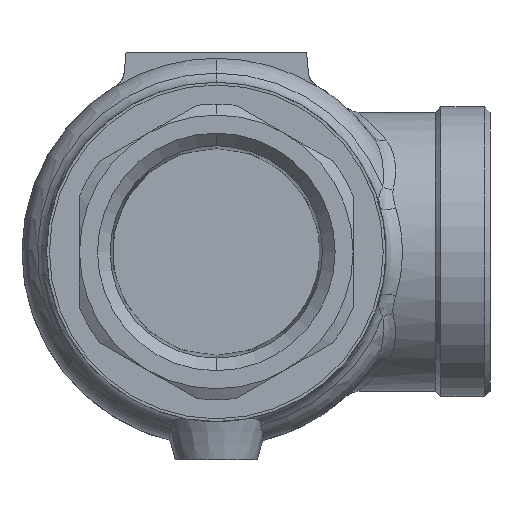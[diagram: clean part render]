
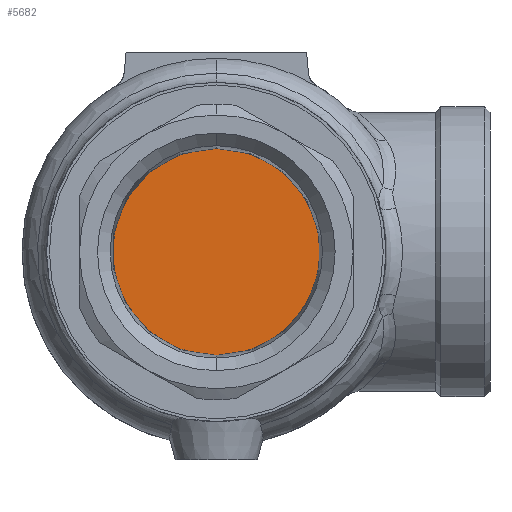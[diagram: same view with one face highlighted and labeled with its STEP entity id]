
A CAD part, front view. The second image highlights one B-rep face of the part: STEP entity #5682.
In plain terms, the highlighted planar face has unit normal (0, -1, 0).
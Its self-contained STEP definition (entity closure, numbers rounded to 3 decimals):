
#660 = CARTESIAN_POINT ( 'NONE',  ( 0., -43., 18.9 ) ) ;
#807 = CARTESIAN_POINT ( 'NONE',  ( 0., -43., 0. ) ) ;
#926 = CARTESIAN_POINT ( 'NONE',  ( -18.9, -43., 0. ) ) ;
#1217 = EDGE_LOOP ( 'NONE', ( #6500, #6875 ) ) ;
#1301 = AXIS2_PLACEMENT_3D ( 'NONE', #926, #1398, #4457 ) ;
#1398 = DIRECTION ( 'NONE',  ( 0., 1., 0. ) ) ;
#1620 = CIRCLE ( 'NONE', #4491, 18.9 ) ;
#1667 = DIRECTION ( 'NONE',  ( 0., 1., 0. ) ) ;
#2007 = VERTEX_POINT ( 'NONE', #6822 ) ;
#2574 = DIRECTION ( 'NONE',  ( 0., 1., 0. ) ) ;
#2731 = DIRECTION ( 'NONE',  ( 0., 0., 1. ) ) ;
#4326 = DIRECTION ( 'NONE',  ( 0., 0., 1. ) ) ;
#4457 = DIRECTION ( 'NONE',  ( 0., 0., 1. ) ) ;
#4491 = AXIS2_PLACEMENT_3D ( 'NONE', #4646, #1667, #2731 ) ;
#4646 = CARTESIAN_POINT ( 'NONE',  ( 0., -43., 0. ) ) ;
#4737 = AXIS2_PLACEMENT_3D ( 'NONE', #807, #2574, #4326 ) ;
#4759 = EDGE_CURVE ( 'NONE', #2007, #6991, #4863, .T. ) ;
#4863 = CIRCLE ( 'NONE', #4737, 18.9 ) ;
#4911 = EDGE_CURVE ( 'NONE', #6991, #2007, #1620, .T. ) ;
#5546 = FACE_OUTER_BOUND ( 'NONE', #1217, .T. ) ;
#5682 = ADVANCED_FACE ( 'NONE', ( #5546 ), #7360, .F. ) ;
#6500 = ORIENTED_EDGE ( 'NONE', *, *, #4759, .F. ) ;
#6822 = CARTESIAN_POINT ( 'NONE',  ( 0., -43., -18.9 ) ) ;
#6875 = ORIENTED_EDGE ( 'NONE', *, *, #4911, .F. ) ;
#6991 = VERTEX_POINT ( 'NONE', #660 ) ;
#7360 = PLANE ( 'NONE',  #1301 ) ;
